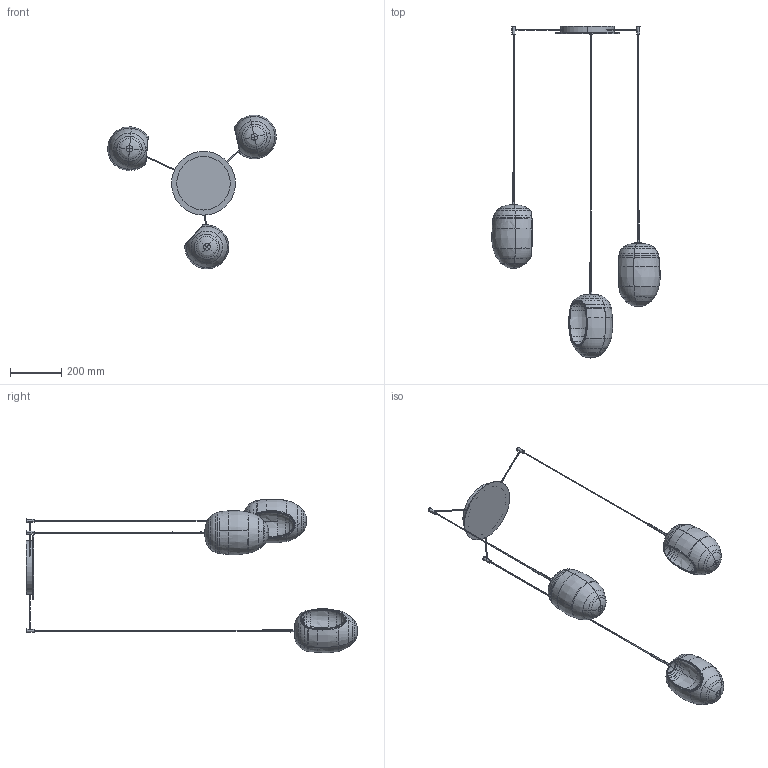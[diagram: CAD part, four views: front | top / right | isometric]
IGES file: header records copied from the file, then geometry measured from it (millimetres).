
Start section: SolidWorks IGES file using analytic representation for surfaces
Global section: file name: Y:\eforma\TECNICO\SOLIDWORKS\E-FORMA\09-LAMPADE\FOS\02 parts\FOS03_3 sospensione.IGS; native system: SolidWorks 2022; preprocessor: SolidWorks 2022; author: eforma.tech; date: 250519.091320; units: millimetre
Bounding box: 662.08 x 1300.54 x 603.5 mm (x, y, z)
Volume: 2286667.9 mm3; surface area: 1093685.6 mm2
Topology: 31 solids, 31 shells, 697 faces, 1665 edges, 1025 vertices
Faces by surface type: revolution 449, plane 182, bspline 66
